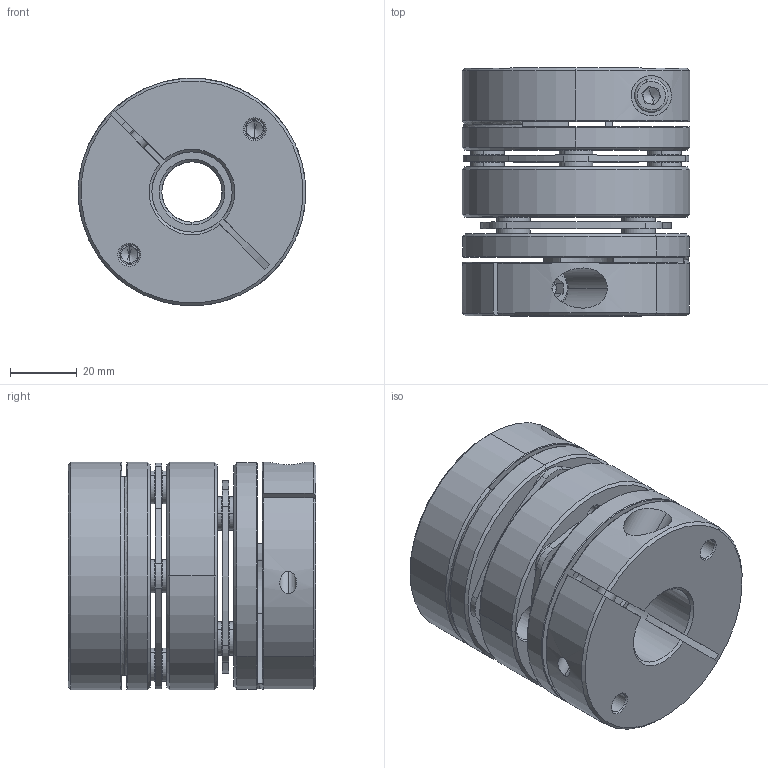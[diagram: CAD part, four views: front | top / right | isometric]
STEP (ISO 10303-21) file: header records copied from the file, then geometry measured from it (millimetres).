
FILE_DESCRIPTION (( 'STEP AP203' ), '1' );
FILE_NAME ('LD2-D68-18-24.STEP', '2021-10-26T08:25:24', ( '' ), ( '' ), 'SwSTEP 2.0', 'SolidWorks 2018', '' );
FILE_SCHEMA (( 'CONFIG_CONTROL_DESIGN' ));
Length unit declared in the file: millimetre
Products named in the file (2): 錨璃102^LD2-D68; LD2-D68-18-24
Assembly tree (1 placements, depth 2):
  LD2-D68-18-24
    錨璃102^LD2-D68
Bounding box: 68 x 74 x 68 mm (x, y, z)
Volume: 187967.3 mm3; surface area: 64529.6 mm2
Topology: 1 solids, 27 shells, 736 faces, 1708 edges, 1040 vertices
Faces by surface type: cylinder 258, cone 226, plane 222, torus 30
Entity records: 21536 total; most frequent: DIRECTION 4002, CARTESIAN_POINT 3933, ORIENTED_EDGE 3368, EDGE_CURVE 1684, AXIS2_PLACEMENT_3D 1625, VERTEX_POINT 1040, CIRCLE 885, EDGE_LOOP 872
